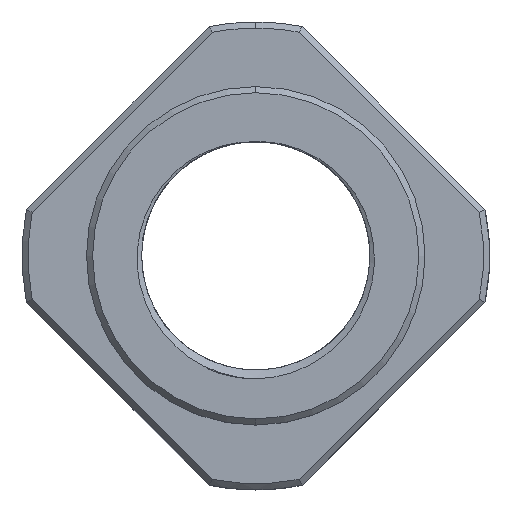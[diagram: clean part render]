
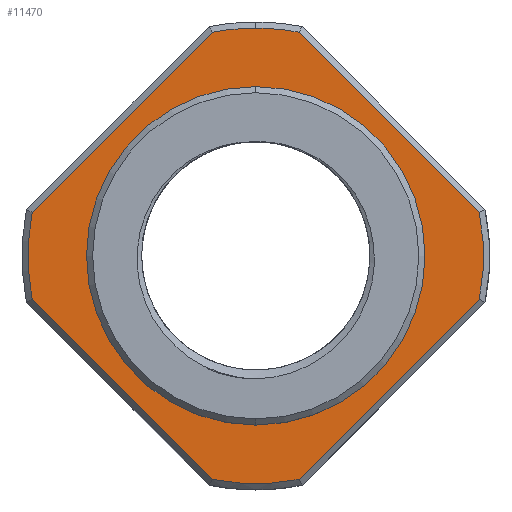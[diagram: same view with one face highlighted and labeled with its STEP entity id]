
A CAD part, top view. The second image highlights one B-rep face of the part: STEP entity #11470.
In plain terms, the highlighted planar face has unit normal (0, 0, 1).
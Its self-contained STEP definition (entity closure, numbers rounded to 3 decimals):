
#101 = VECTOR ( 'NONE', #1867, 1000. ) ;
#180 = ORIENTED_EDGE ( 'NONE', *, *, #20662, .T. ) ;
#794 = VERTEX_POINT ( 'NONE', #12440 ) ;
#978 = DIRECTION ( 'NONE',  ( 0., 0., 1. ) ) ;
#1181 = CARTESIAN_POINT ( 'NONE',  ( 0., 0., 7.1 ) ) ;
#1635 = FACE_BOUND ( 'NONE', #13958, .T. ) ;
#1867 = DIRECTION ( 'NONE',  ( -0.707, 0.707, 0. ) ) ;
#2084 = ORIENTED_EDGE ( 'NONE', *, *, #18969, .T. ) ;
#2178 = VECTOR ( 'NONE', #4531, 1000. ) ;
#2182 = VERTEX_POINT ( 'NONE', #15744 ) ;
#2185 = VERTEX_POINT ( 'NONE', #22970 ) ;
#2203 = CARTESIAN_POINT ( 'NONE',  ( 10.961, -2.049, 7.1 ) ) ;
#2241 = VERTEX_POINT ( 'NONE', #16241 ) ;
#2841 = DIRECTION ( 'NONE',  ( 0., 1., 0. ) ) ;
#3008 = DIRECTION ( 'NONE',  ( 0., 1., 0. ) ) ;
#3369 = ORIENTED_EDGE ( 'NONE', *, *, #17927, .T. ) ;
#4190 = ORIENTED_EDGE ( 'NONE', *, *, #18100, .T. ) ;
#4356 = VECTOR ( 'NONE', #12981, 1000. ) ;
#4413 = DIRECTION ( 'NONE',  ( 0., 0., 1. ) ) ;
#4525 = CARTESIAN_POINT ( 'NONE',  ( -2.114, 10.897, 7.1 ) ) ;
#4531 = DIRECTION ( 'NONE',  ( 0.707, -0.707, 0. ) ) ;
#5297 = VERTEX_POINT ( 'NONE', #18028 ) ;
#5641 = VERTEX_POINT ( 'NONE', #8100 ) ;
#6145 = CIRCLE ( 'NONE', #17009, 11.1 ) ;
#6341 = CARTESIAN_POINT ( 'NONE',  ( 0., 0., 7.1 ) ) ;
#6493 = DIRECTION ( 'NONE',  ( 0., 0., 1. ) ) ;
#6666 = EDGE_CURVE ( 'NONE', #2185, #8338, #19597, .T. ) ;
#6978 = ORIENTED_EDGE ( 'NONE', *, *, #14165, .T. ) ;
#7315 = EDGE_LOOP ( 'NONE', ( #6978, #2084, #20851, #8667, #11146, #13108, #180, #3369, #4190 ) ) ;
#7469 = CIRCLE ( 'NONE', #18823, 11.1 ) ;
#7549 = LINE ( 'NONE', #15290, #2178 ) ;
#7876 = EDGE_CURVE ( 'NONE', #2182, #2185, #12753, .T. ) ;
#7987 = CARTESIAN_POINT ( 'NONE',  ( -10.897, -2.114, 7.1 ) ) ;
#8003 = LINE ( 'NONE', #2203, #4356 ) ;
#8100 = CARTESIAN_POINT ( 'NONE',  ( -2.114, -10.897, 7.1 ) ) ;
#8140 = DIRECTION ( 'NONE',  ( 0., 1., 0. ) ) ;
#8245 = AXIS2_PLACEMENT_3D ( 'NONE', #1181, #13763, #3008 ) ;
#8338 = VERTEX_POINT ( 'NONE', #13947 ) ;
#8667 = ORIENTED_EDGE ( 'NONE', *, *, #10422, .T. ) ;
#8909 = ORIENTED_EDGE ( 'NONE', *, *, #20935, .F. ) ;
#9490 = CARTESIAN_POINT ( 'NONE',  ( 0., 0., 7.1 ) ) ;
#9630 = CARTESIAN_POINT ( 'NONE',  ( 10.897, -2.114, 7.1 ) ) ;
#9801 = AXIS2_PLACEMENT_3D ( 'NONE', #17243, #6493, #19046 ) ;
#9880 = DIRECTION ( 'NONE',  ( 0., 0., 1. ) ) ;
#10001 = PLANE ( 'NONE',  #20684 ) ;
#10422 = EDGE_CURVE ( 'NONE', #17278, #2182, #7469, .T. ) ;
#10651 = FACE_OUTER_BOUND ( 'NONE', #7315, .T. ) ;
#11146 = ORIENTED_EDGE ( 'NONE', *, *, #7876, .T. ) ;
#11285 = DIRECTION ( 'NONE',  ( 0., 1., 0. ) ) ;
#11470 = ADVANCED_FACE ( 'NONE', ( #10651, #1635 ), #10001, .F. ) ;
#11741 = CARTESIAN_POINT ( 'NONE',  ( 0., 0., 7.1 ) ) ;
#12047 = AXIS2_PLACEMENT_3D ( 'NONE', #20619, #9880, #22424 ) ;
#12440 = CARTESIAN_POINT ( 'NONE',  ( 0., 8.25, 7.1 ) ) ;
#12753 = LINE ( 'NONE', #16260, #101 ) ;
#12981 = DIRECTION ( 'NONE',  ( 0.707, 0.707, 0. ) ) ;
#13108 = ORIENTED_EDGE ( 'NONE', *, *, #6666, .T. ) ;
#13130 = AXIS2_PLACEMENT_3D ( 'NONE', #9490, #22039, #11285 ) ;
#13549 = DIRECTION ( 'NONE',  ( 0., 1., 0. ) ) ;
#13596 = DIRECTION ( 'NONE',  ( 0., 0., -1. ) ) ;
#13602 = CARTESIAN_POINT ( 'NONE',  ( -10.961, 2.049, 7.1 ) ) ;
#13763 = DIRECTION ( 'NONE',  ( 0., 0., 1. ) ) ;
#13947 = CARTESIAN_POINT ( 'NONE',  ( 0., 11.1, 7.1 ) ) ;
#13958 = EDGE_LOOP ( 'NONE', ( #8909, #20926 ) ) ;
#14165 = EDGE_CURVE ( 'NONE', #20628, #5641, #7549, .T. ) ;
#15141 = VERTEX_POINT ( 'NONE', #17644 ) ;
#15180 = CARTESIAN_POINT ( 'NONE',  ( 0., 0., 7.1 ) ) ;
#15290 = CARTESIAN_POINT ( 'NONE',  ( -2.049, -10.961, 7.1 ) ) ;
#15744 = CARTESIAN_POINT ( 'NONE',  ( 10.897, 2.114, 7.1 ) ) ;
#16054 = VECTOR ( 'NONE', #19021, 1000. ) ;
#16082 = CIRCLE ( 'NONE', #9801, 8.25 ) ;
#16241 = CARTESIAN_POINT ( 'NONE',  ( 2.114, -10.897, 7.1 ) ) ;
#16260 = CARTESIAN_POINT ( 'NONE',  ( 2.049, 10.961, 7.1 ) ) ;
#16583 = EDGE_CURVE ( 'NONE', #2241, #17278, #8003, .T. ) ;
#16620 = EDGE_CURVE ( 'NONE', #794, #5297, #16997, .T. ) ;
#16997 = CIRCLE ( 'NONE', #17534, 8.25 ) ;
#17009 = AXIS2_PLACEMENT_3D ( 'NONE', #6341, #18892, #8140 ) ;
#17059 = CARTESIAN_POINT ( 'NONE',  ( 0., 11.4, 7.1 ) ) ;
#17174 = CIRCLE ( 'NONE', #8245, 11.1 ) ;
#17243 = CARTESIAN_POINT ( 'NONE',  ( 0., 0., 7.1 ) ) ;
#17278 = VERTEX_POINT ( 'NONE', #9630 ) ;
#17534 = AXIS2_PLACEMENT_3D ( 'NONE', #15180, #4413, #21378 ) ;
#17644 = CARTESIAN_POINT ( 'NONE',  ( -10.897, 2.114, 7.1 ) ) ;
#17927 = EDGE_CURVE ( 'NONE', #18983, #15141, #20273, .T. ) ;
#18028 = CARTESIAN_POINT ( 'NONE',  ( 0., -8.25, 7.1 ) ) ;
#18100 = EDGE_CURVE ( 'NONE', #15141, #20628, #17174, .T. ) ;
#18823 = AXIS2_PLACEMENT_3D ( 'NONE', #11741, #978, #13549 ) ;
#18892 = DIRECTION ( 'NONE',  ( 0., 0., 1. ) ) ;
#18969 = EDGE_CURVE ( 'NONE', #5641, #2241, #6145, .T. ) ;
#18983 = VERTEX_POINT ( 'NONE', #4525 ) ;
#19021 = DIRECTION ( 'NONE',  ( -0.707, -0.707, 0. ) ) ;
#19046 = DIRECTION ( 'NONE',  ( 0., -1., 0. ) ) ;
#19597 = CIRCLE ( 'NONE', #13130, 11.1 ) ;
#20273 = LINE ( 'NONE', #13602, #16054 ) ;
#20619 = CARTESIAN_POINT ( 'NONE',  ( 0., 0., 7.1 ) ) ;
#20628 = VERTEX_POINT ( 'NONE', #7987 ) ;
#20662 = EDGE_CURVE ( 'NONE', #8338, #18983, #21411, .T. ) ;
#20684 = AXIS2_PLACEMENT_3D ( 'NONE', #17059, #13596, #2841 ) ;
#20851 = ORIENTED_EDGE ( 'NONE', *, *, #16583, .T. ) ;
#20926 = ORIENTED_EDGE ( 'NONE', *, *, #16620, .F. ) ;
#20935 = EDGE_CURVE ( 'NONE', #5297, #794, #16082, .T. ) ;
#21378 = DIRECTION ( 'NONE',  ( 0., -1., 0. ) ) ;
#21411 = CIRCLE ( 'NONE', #12047, 11.1 ) ;
#22039 = DIRECTION ( 'NONE',  ( 0., 0., 1. ) ) ;
#22424 = DIRECTION ( 'NONE',  ( 0., 1., 0. ) ) ;
#22970 = CARTESIAN_POINT ( 'NONE',  ( 2.114, 10.897, 7.1 ) ) ;
